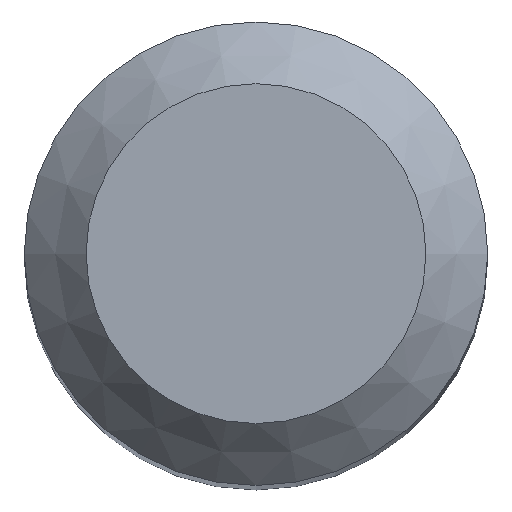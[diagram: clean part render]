
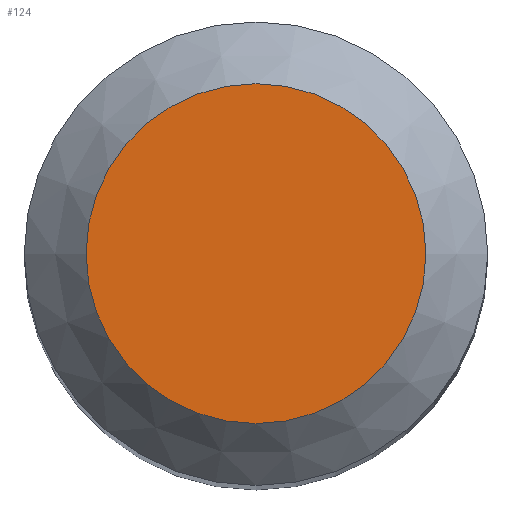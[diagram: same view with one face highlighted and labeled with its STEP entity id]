
A CAD part, top view. The second image highlights one B-rep face of the part: STEP entity #124.
In plain terms, the highlighted planar face has unit normal (0, 0, 1).
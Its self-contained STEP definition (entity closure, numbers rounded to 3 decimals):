
#108=CARTESIAN_POINT('',(2.2,0.0,55.0));
#109=DIRECTION('',(0.0,0.0,1.0));
#110=DIRECTION('',(1.0,0.0,0.0));
#111=AXIS2_PLACEMENT_3D('',#108,#109,#110);
#112=PLANE('',#111);
#113=CARTESIAN_POINT('',(-2.2,0.0,55.0));
#114=VERTEX_POINT('',#113);
#115=CARTESIAN_POINT('',(0.0,0.0,55.0));
#116=DIRECTION('',(0.0,0.0,-1.0));
#117=DIRECTION('',(-1.0,0.0,0.0));
#118=AXIS2_PLACEMENT_3D('',#115,#116,#117);
#119=CIRCLE('',#118,2.2);
#120=EDGE_CURVE('',#114,#114,#119,.T.);
#121=ORIENTED_EDGE('',*,*,#120,.F.);
#122=EDGE_LOOP('',(#121));
#123=FACE_OUTER_BOUND('',#122,.T.);
#124=ADVANCED_FACE('',(#123),#112,.T.);
